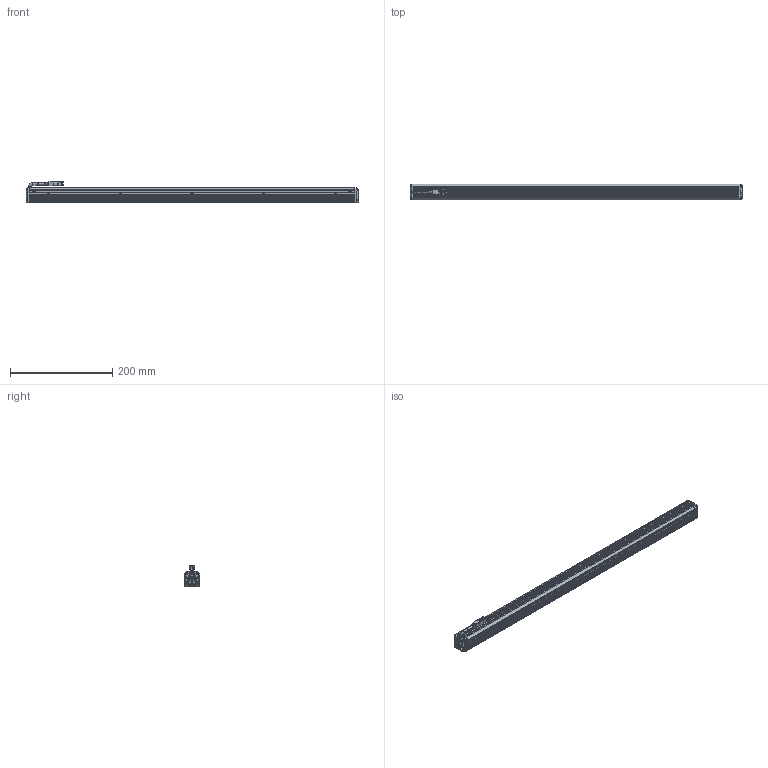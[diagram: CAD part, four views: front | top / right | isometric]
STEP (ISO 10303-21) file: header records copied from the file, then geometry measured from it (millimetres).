
FILE_DESCRIPTION((''),'2;1');
FILE_NAME('MV-LLDS-H-700-30-W-PL_ASM','2024-04-08T14:26:57',('huguozhe'),(''),'CREO PARAMETRIC BY PTC INC, 2020044','CREO PARAMETRIC BY PTC INC, 2020044','');
FILE_SCHEMA(('AUTOMOTIVE_DESIGN { 1 0 10303 214 1 1 1 1 }'));
Length unit declared in the file: millimetre
Products named in the file (15): DE-15-001270; DE-15-001269_ASM; DE-15-000520; DE-15-000519_ASM; DE-12-002271; TIP-M3X4-4_5X5-SO-ET-07061033; DE-12-002271_ASM; DE-12-001581; SC-KM2X6-BNI-GB819; XIANLAN_HEAD; CABLE_HEAD; CABLE_HEAD_ASM_ASM; 190100852; SC-PM2X6B-JMP; MV-LLDS-H-700-30-W-PL_ASM
Assembly tree (34 placements, depth 3):
  MV-LLDS-H-700-30-W-PL_ASM
    DE-15-001269_ASM
      DE-15-001270
    DE-15-000519_ASM
      DE-15-000520
    DE-12-002271_ASM  x2
      DE-12-002271
      TIP-M3X4-4_5X5-SO-ET-07061033
    DE-12-001581
    SC-KM2X6-BNI-GB819  x5
    CABLE_HEAD_ASM_ASM
      XIANLAN_HEAD
      CABLE_HEAD
    190100852  x8
    SC-PM2X6B-JMP  x8
Bounding box: 648 x 30 x 42.65 mm (x, y, z)
Volume: 446349.1 mm3; surface area: 239453.7 mm2
Topology: 32 solids, 70 shells, 2857 faces, 7361 edges, 4631 vertices
Faces by surface type: plane 1374, cylinder 626, bspline 472, cone 324, torus 52, sphere 8, extrusion 1
Entity records: 48591 total; most frequent: CARTESIAN_POINT 11323, ORIENTED_EDGE 6240, DIRECTION 6041, EDGE_CURVE 3154, AXIS2_PLACEMENT_3D 2022, VERTEX_POINT 2021, VECTOR 1997, LINE 1996
